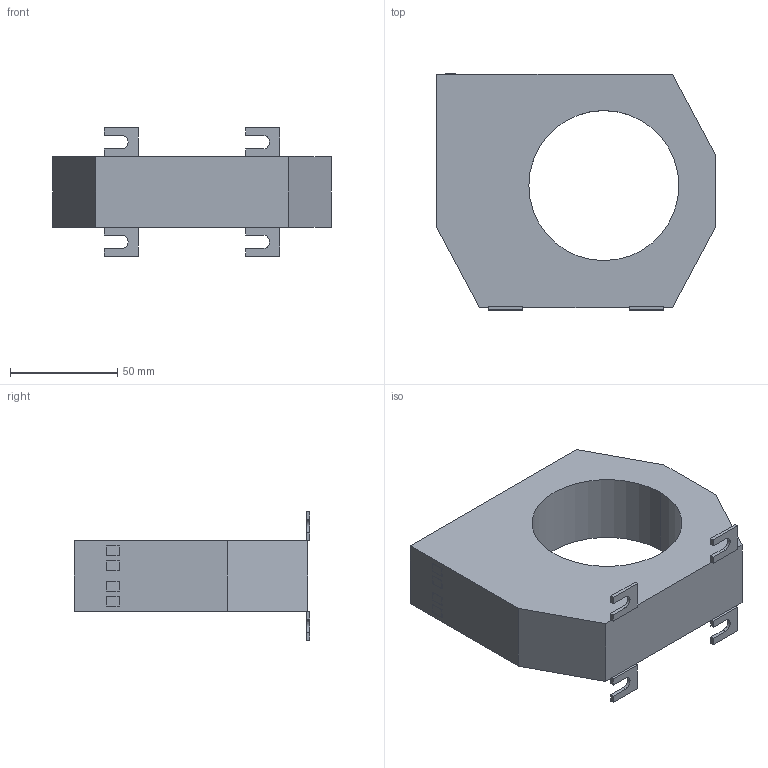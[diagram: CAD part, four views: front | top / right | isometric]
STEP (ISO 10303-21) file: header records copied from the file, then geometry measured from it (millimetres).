
FILE_DESCRIPTION (( 'STEP AP214' ), '1' );
FILE_NAME ('W2-S70_Z850088.STEP', '2015-06-23T06:15:16', ( 'User' ), ( 'Bender' ), 'SwSTEP 2.0', 'SolidWorks 2015', '' );
FILE_SCHEMA (( 'AUTOMOTIVE_DESIGN' ));
Length unit declared in the file: millimetre
Products named in the file (2): W2-S70_Z850088
Bounding box: 130 x 110.05 x 60 mm (x, y, z)
Volume: 304402.1 mm3; surface area: 42001.8 mm2
Topology: 13 solids, 13 shells, 111 faces, 243 edges, 162 vertices
Faces by surface type: plane 97, cylinder 14
Entity records: 4046 total; most frequent: CARTESIAN_POINT 518, DIRECTION 497, ORIENTED_EDGE 486, EDGE_CURVE 243, VECTOR 215, LINE 215, VERTEX_POINT 162, AXIS2_PLACEMENT_3D 141
